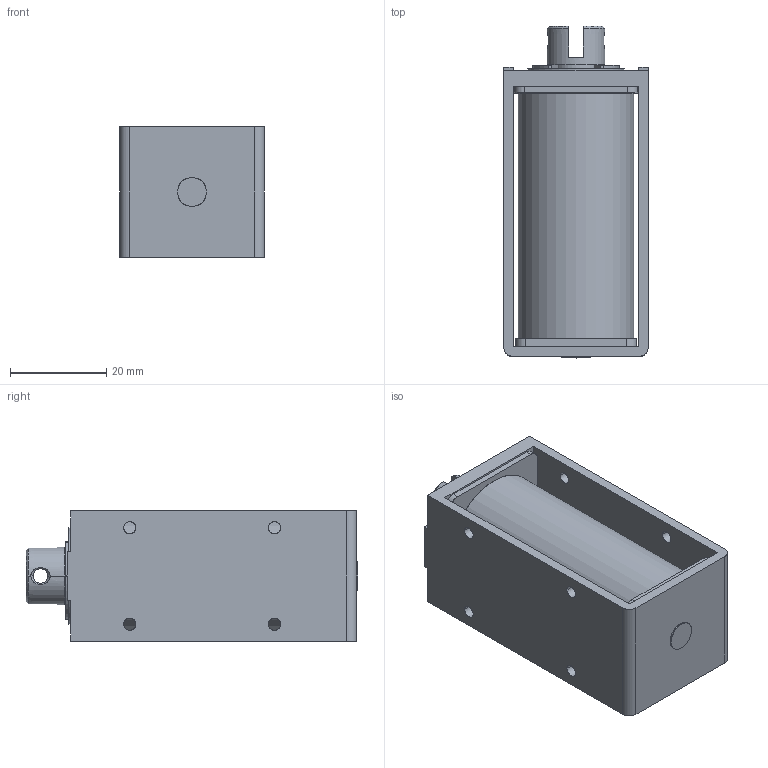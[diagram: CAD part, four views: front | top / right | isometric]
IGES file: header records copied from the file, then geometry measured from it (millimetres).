
Start section: SolidWorks IGES file using analytic representation for surfaces
Global section: file name: L:\カタログ\web用3Dデータ\CA1260\3D_CA1260\w_ca1260.IGS; native system: SolidWorks 2014; preprocessor: SolidWorks 2014; author: jiba; date: 140714.120804; units: millimetre
Bounding box: 30 x 68.8 x 27 mm (x, y, z)
Surface area: 24458.5 mm2 (no closed solid volume)
Topology: 0 solids, 0 shells, 130 faces, 2357 edges, 2357 vertices
Faces by surface type: revolution 75, bspline 55
